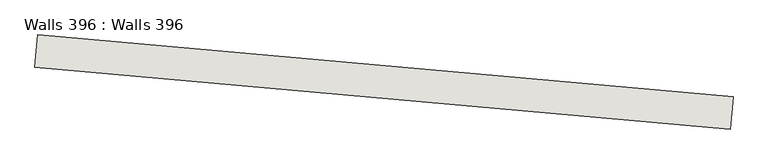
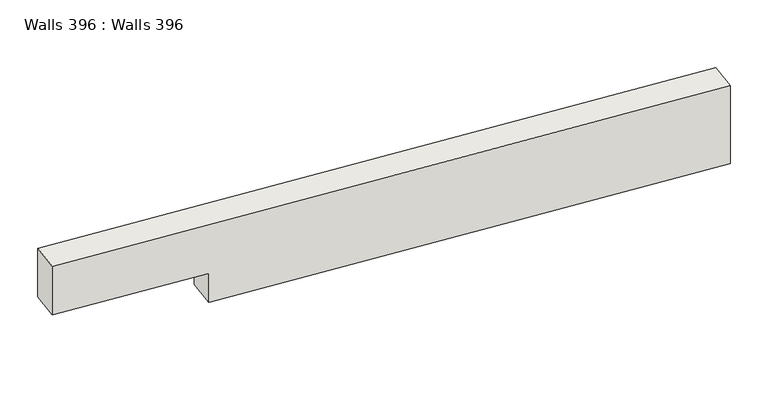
"""IFC4 building model written with IfcOpenShell, lengths in millimetres: wall geometry, Walls 396 : Walls 396."""

from ifc_helpers import new_model, si_unit, frame, origin, place, context, project, spatial, polyline, outline, extrude, source, transform, mapped, element, save


def walls_396_walls_396_39579482(model_context):
    return source(origin(), model_context, "Body", "SweptSolid", [
        extrude(outline(polyline([(0.0, -1100.0), (0.0, 0.0), (8650.0, 0.0), (8650.0, -690.0), (6650.0000001, -690.0), (6650.0000001, -1100.0), (0.0, -1100.0)])), frame((-579047.8435626, -427493.84124, 637960.0), z_axis=(0.08873732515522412, 0.9960550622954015, 0.0), x_axis=(-0.9960550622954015, 0.08873732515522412, 0.0)), (0.0, 0.0, 1.0), 400.0),
    ])


if __name__ == "__main__":
    model = new_model("IFC4")
    model_context = context("Model", 3, world=origin())
    ifc_project = project(units=[si_unit("LENGTHUNIT", "METRE", prefix="MILLI")], contexts=[model_context])
    site = spatial("IfcSite", under=ifc_project)
    building = spatial("IfcBuilding", under=site)
    placement = place(None, origin())
    walls_396_walls_396_shape = walls_396_walls_396_39579482(model_context)
    element("IfcWall", 1, ObjectType="Walls 396 : Walls 396", at=placement, inside=building, context=model_context, shape_type="MappedRepresentation", body=[
        mapped(walls_396_walls_396_shape, transform((0.0, 0.0, 0.0), x_axis=(1.0, 0.0, 0.0), y_axis=(0.0, 1.0, 0.0), z_axis=(0.0, 0.0, 1.0))),
    ])
    save(model, "model.ifc")
